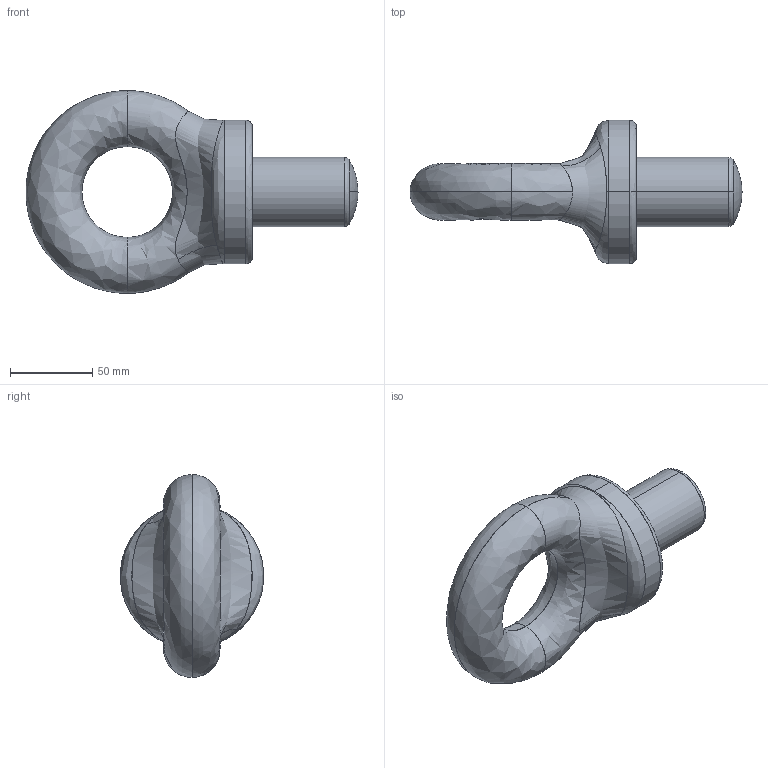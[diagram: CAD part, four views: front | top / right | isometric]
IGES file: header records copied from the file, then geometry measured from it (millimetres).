
Start section: SolidWorks IGES FILE using analytic representation for surfaces
Global section: file name: C:\Documents and Settings\Townley Workstation\Desktop\tooling\Townley products\Eye bolts\EBB1500\Model\Finished part drawings\EBB1500.IGS; native system: SolidWorks 2004 by SolidWorks Corporation; preprocessor: Version 5.3; author: Townley Workstation; date: 091119.135755; units: millimetre
Bounding box: 201.4 x 87 x 123 mm (x, y, z)
Surface area: 49415.6 mm2 (no closed solid volume)
Topology: 0 solids, 0 shells, 219 faces, 3092 edges, 3092 vertices
Faces by surface type: bspline 213, revolution 6
